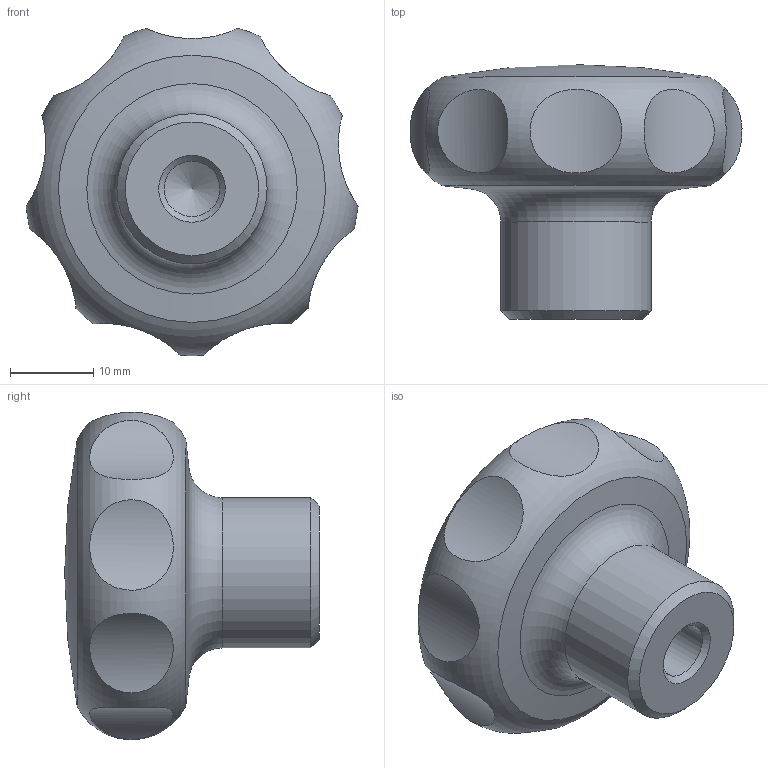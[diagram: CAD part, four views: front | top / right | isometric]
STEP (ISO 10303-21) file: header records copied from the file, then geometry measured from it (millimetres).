
FILE_DESCRIPTION( ( 'STEP AP203' ), '1' );
FILE_NAME( 'C:/Temp/Ganter_Step_05_03_2020/data/2_2/gn_5335/gn_5335_e_pl/Stainless Steel-Star knob GN 5335-40-M8-E-PL.stp', '2020-03-05T12:10:30', ( 'License CC BY-ND 4.0' ), ( 'CADENAS' ), ' ', 'PARTsolutions', ' ' );
FILE_SCHEMA( ( 'CONFIG_CONTROL_DESIGN' ) );
Length unit declared in the file: millimetre
Products named in the file (1): _Stainless Steel-Star knob GN 5335-40-M8-E-PL
Bounding box: 39.77 x 30.5 x 39.22 mm (x, y, z)
Volume: 18167.3 mm3; surface area: 4548.8 mm2
Topology: 1 solids, 1 shells, 19 faces, 30 edges, 21 vertices
Faces by surface type: cylinder 11, cone 3, torus 2, sphere 2, plane 1
Full cylindrical faces by diameter (mm): 6.647 x1, 18 x1
Entity records: 1169 total; most frequent: CARTESIAN_POINT 825, DIRECTION 58, EDGE_LOOP 36, ORIENTED_EDGE 36, AXIS2_PLACEMENT_3D 29, FACE_OUTER_BOUND 24, VERTEX_POINT 21, ADVANCED_FACE 19
